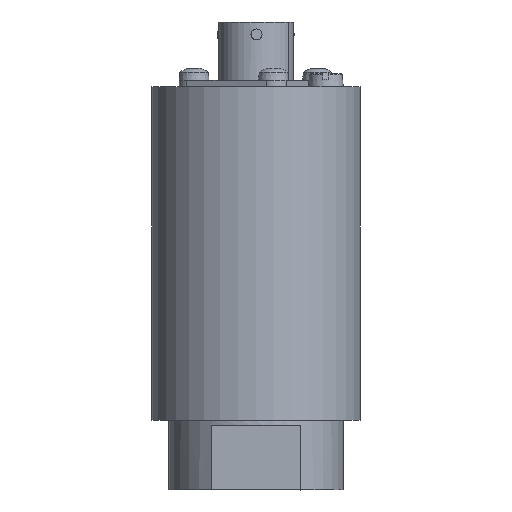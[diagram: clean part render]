
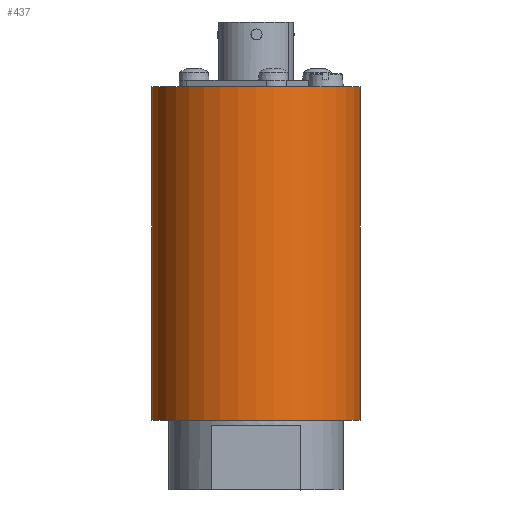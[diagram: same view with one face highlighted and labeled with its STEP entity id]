
A CAD part, top view. The second image highlights one B-rep face of the part: STEP entity #437.
In plain terms, the highlighted cylindrical face has radius 21 mm (diameter 42 mm), a partial arc.
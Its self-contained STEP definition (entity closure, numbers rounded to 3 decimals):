
#437=ADVANCED_FACE('',(#1199),#1200,.T.);
#1199=FACE_OUTER_BOUND('',#2354,.T.);
#1200=CYLINDRICAL_SURFACE('',#2355,21.0);
#2354=EDGE_LOOP('',(#3673,#3674,#3675,#3676));
#2355=AXIS2_PLACEMENT_3D('',#3677,#3678,#3679);
#3673=ORIENTED_EDGE('',*,*,#6671,.F.);
#3674=ORIENTED_EDGE('',*,*,#6672,.T.);
#3675=ORIENTED_EDGE('',*,*,#6673,.F.);
#3676=ORIENTED_EDGE('',*,*,#6674,.F.);
#3677=CARTESIAN_POINT('',(0.0,32.5,0.0));
#3678=DIRECTION('',(0.0,1.0,-0.0));
#3679=DIRECTION('',(1.0,0.0,0.0));
#6671=EDGE_CURVE('',#7984,#7985,#7986,.T.);
#6672=EDGE_CURVE('',#7984,#7987,#7988,.T.);
#6673=EDGE_CURVE('',#7989,#7987,#7990,.T.);
#6674=EDGE_CURVE('',#7985,#7989,#7991,.T.);
#7984=VERTEX_POINT('',#9897);
#7985=VERTEX_POINT('',#9898);
#7986=LINE('',#9899,#9900);
#7987=VERTEX_POINT('',#9901);
#7988=CIRCLE('',#9902,21.0);
#7989=VERTEX_POINT('',#9903);
#7990=LINE('',#9904,#9905);
#7991=CIRCLE('',#9906,21.0);
#9897=CARTESIAN_POINT('',(21.0,65.0,0.0));
#9898=CARTESIAN_POINT('',(21.0,-2.,0.));
#9899=CARTESIAN_POINT('',(21.0,32.5,0.));
#9900=VECTOR('',#12295,1.0);
#9901=CARTESIAN_POINT('',(-21.0,65.0,0.));
#9902=AXIS2_PLACEMENT_3D('',#12296,#12297,#12298);
#9903=CARTESIAN_POINT('',(-21.0,-2.,0.));
#9904=CARTESIAN_POINT('',(-21.0,32.5,0.));
#9905=VECTOR('',#12299,1.0);
#9906=AXIS2_PLACEMENT_3D('',#12300,#12301,#12302);
#12295=DIRECTION('',(-0.0,-1.0,0.0));
#12296=CARTESIAN_POINT('',(0.0,65.0,0.0));
#12297=DIRECTION('',(0.0,-1.0,0.0));
#12298=DIRECTION('',(1.0,0.0,0.0));
#12299=DIRECTION('',(0.0,1.0,0.0));
#12300=CARTESIAN_POINT('',(0.,-2.,0.));
#12301=DIRECTION('',(0.,-1.0,0.));
#12302=DIRECTION('',(1.,0.,0.));
